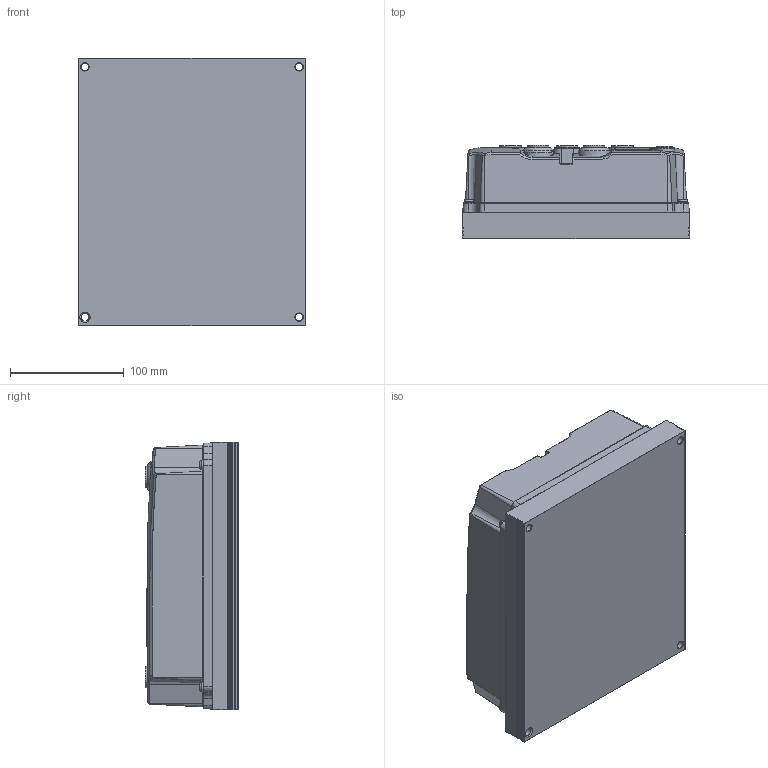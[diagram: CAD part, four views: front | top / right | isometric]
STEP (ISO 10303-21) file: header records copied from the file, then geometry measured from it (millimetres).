
FILE_DESCRIPTION(/* description */ (''),/* implementation_level */ '2;1');
FILE_NAME(/* name */ 'C:\1SSDE Vault\CAD\GVI\GVI_Frame_E\GVI_Frame_E.stp',/* time_stamp */ '2019-09-12T15:49:06+01:00',/* author */ ('SC084691'),/* organization */ (''),/* preprocessor_version */ 'ST-DEVELOPER v18',/* originating_system */ 'Autodesk Inventor 2020',/* authorisation */ '');
FILE_SCHEMA (('CONFIG_CONTROL_DESIGN'));
Products named in the file (1): GVI_Frame_E
Bounding box: 200 x 81.7 x 235 mm (x, y, z)
Volume: 1327765 mm3; surface area: 337521.5 mm2
Topology: 11 solids, 11 shells, 2727 faces, 7066 edges, 4488 vertices
Faces by surface type: plane 1250, bspline 494, cylinder 441, cone 334, torus 186, sphere 22
Full cylindrical faces by diameter (mm): 2.75 x30, 3.7 x4, 4 x4, 4.5 x1, 6 x1, 6.6 x3, 6.8 x2, 7.893 x10, 8 x4, 10 x1, 10.3 x1, 11 x1, 12.5 x1, 14 x1, 14.3 x1, 18.767 x7, 28 x2, 29.1 x5
Entity records: 117911 total; most frequent: CARTESIAN_POINT 53580, ORIENTED_EDGE 13950, DIRECTION 12550, EDGE_CURVE 6975, VERTEX_POINT 4488, AXIS2_PLACEMENT_3D 4356, LINE 3838, VECTOR 3838
